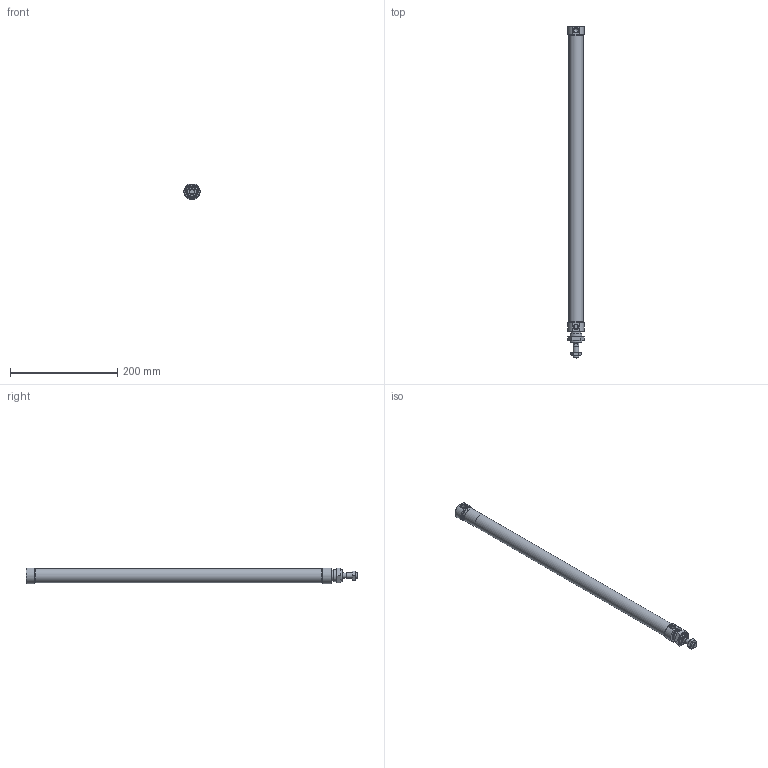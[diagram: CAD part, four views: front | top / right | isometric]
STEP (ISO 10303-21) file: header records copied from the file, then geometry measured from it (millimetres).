
FILE_DESCRIPTION(/* description */ ('Unknown'),/* implementation_level */ '2;1');
FILE_NAME(/* name */ 'RIMR 25_500',/* time_stamp */ '2024-08-30T09:35:05+02:00',/* author */ ('Unknown'),/* organization */ ('Unknown'),/* preprocessor_version */ 'ST-DEVELOPER v16.7',/* originating_system */ 'Solid Edge',/* authorisation */ 'Unknown');
FILE_SCHEMA (('AUTOMOTIVE_DESIGN {1 0 10303 214 3 1 1}'));
Length unit declared in the file: millimetre
Products named in the file (7): RIMR 25_500; Profilrohr; Kolbenstange; Kit_1; Kit_2; Mutter_1; Mutter_2
Assembly tree (6 placements, depth 2):
  RIMR 25_500
    Profilrohr
    Kolbenstange
    Kit_1
    Kit_2
    Mutter_1
    Mutter_2
Bounding box: 31.18 x 618 x 28.44 mm (x, y, z)
Volume: 125986.5 mm3; surface area: 119836.9 mm2
Topology: 6 solids, 6 shells, 124 faces, 248 edges, 150 vertices
Faces by surface type: plane 48, cone 38, cylinder 31, torus 7
Full cylindrical faces by diameter (mm): 2 x1, 5 x1, 8.56 x1, 8.566 x2, 8.647 x1, 10 x2, 10.5 x1, 11.1 x1, 14 x1, 14.1 x1, 16.1 x1, 16.2 x1, 19.7 x1, 20.376 x1, 22 x2, 22.9 x1, 25 x3, 26.5 x1, 27 x2
Entity records: 3770 total; most frequent: CARTESIAN_POINT 546, DIRECTION 504, ORIENTED_EDGE 360, AXIS2_PLACEMENT_3D 234, FACE_BOUND 204, EDGE_LOOP 203, EDGE_CURVE 180, VERTEX_POINT 140
